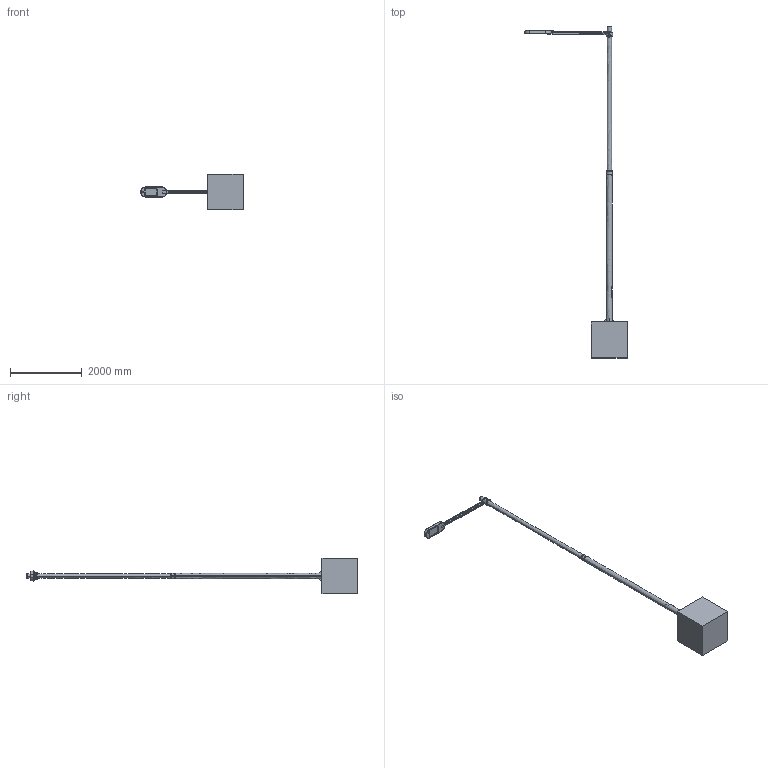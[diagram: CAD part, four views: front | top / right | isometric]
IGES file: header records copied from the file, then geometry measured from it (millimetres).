
Start section: SolidWorks IGES file using analytic representation for surfaces
Global section: file name: C:\SANTACOLE_PDM\Proyectos Catálogo\PROD-P11_014 -- CANDELA LED\6_Técnico comercial\3D WEB\IGES\Farola Candela LED 820cm 2S 1L BRAZO LARGO.IGS; native system: SolidWorks 2013; preprocessor: SolidWorks 2013; author: jordi.munoz; date: 150527.163650; units: millimetre
Bounding box: 2851.26 x 9224.5 x 1000 mm (x, y, z)
Surface area: 15971373.5 mm2 (no closed solid volume)
Topology: 0 solids, 0 shells, 2397 faces, 23183 edges, 23153 vertices
Faces by surface type: bspline 1726, revolution 671
